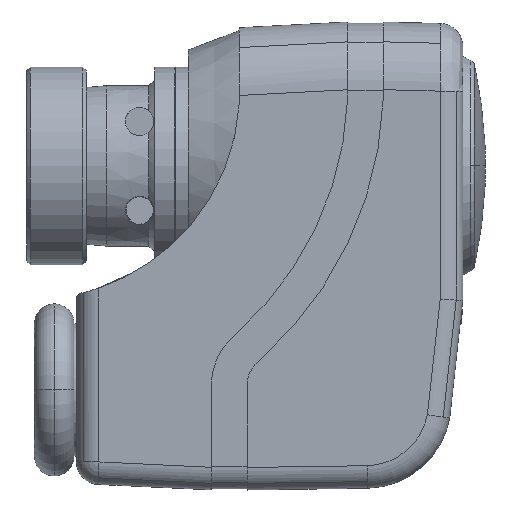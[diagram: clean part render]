
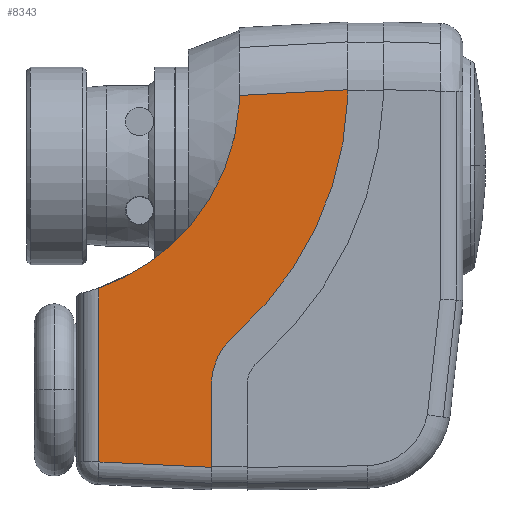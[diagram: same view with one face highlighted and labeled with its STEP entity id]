
A CAD part, left-side view. The second image highlights one B-rep face of the part: STEP entity #8343.
In plain terms, the highlighted planar face has unit normal (-1, 0, 0).
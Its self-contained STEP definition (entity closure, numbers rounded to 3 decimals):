
#7075=CARTESIAN_POINT('',(-24.0,-33.981,-33.71));
#7076=VERTEX_POINT('',#7075);
#7085=CARTESIAN_POINT('',(-24.0,-32.763,-38.152));
#7086=VERTEX_POINT('',#7085);
#7087=CARTESIAN_POINT('',(-24.0,-44.618,-39.013));
#7088=DIRECTION('',(1.,0.,0.));
#7089=DIRECTION('',(0.,0.895,0.446));
#7090=AXIS2_PLACEMENT_3D('',#7087,#7088,#7089);
#7091=CIRCLE('',#7090,11.886);
#7092=EDGE_CURVE('',#7086,#7076,#7091,.T.);
#7117=CARTESIAN_POINT('',(-24.,-51.192,-11.102));
#7118=VERTEX_POINT('',#7117);
#7127=CARTESIAN_POINT('',(-24.0,-36.796,-30.064));
#7128=VERTEX_POINT('',#7127);
#7129=CARTESIAN_POINT('',(-24.,2.023,14.353));
#7130=DIRECTION('',(-1.0,0.,0.));
#7131=DIRECTION('',(0.,-0.902,-0.432));
#7132=AXIS2_PLACEMENT_3D('',#7129,#7130,#7131);
#7133=CIRCLE('',#7132,58.989);
#7134=EDGE_CURVE('',#7128,#7118,#7133,.T.);
#7211=CARTESIAN_POINT('',(-24.0,-37.684,12.492));
#7212=VERTEX_POINT('',#7211);
#7220=CARTESIAN_POINT('',(-24.0,-56.92,13.503));
#7221=VERTEX_POINT('',#7220);
#7222=CARTESIAN_POINT('',(-24.0,-37.684,12.492));
#7223=DIRECTION('',(0.0,-0.999,0.052));
#7224=VECTOR('',#7223,19.262);
#7225=LINE('',#7222,#7224);
#7226=EDGE_CURVE('',#7212,#7221,#7225,.T.);
#7295=CARTESIAN_POINT('',(-24.0,-32.763,-53.457));
#7296=VERTEX_POINT('',#7295);
#7304=CARTESIAN_POINT('',(-24.0,-12.807,-52.498));
#7305=VERTEX_POINT('',#7304);
#7306=CARTESIAN_POINT('',(-24.0,-32.763,-53.457));
#7307=DIRECTION('',(0.0,0.999,0.048));
#7308=VECTOR('',#7307,19.98);
#7309=LINE('',#7306,#7308);
#7310=EDGE_CURVE('',#7296,#7305,#7309,.T.);
#7591=CARTESIAN_POINT('',(-24.,-29.03,-10.579));
#7592=VERTEX_POINT('',#7591);
#7599=CARTESIAN_POINT('',(-24.0,-37.684,11.01));
#7600=VERTEX_POINT('',#7599);
#7601=CARTESIAN_POINT('',(-24.0,-0.908,13.223));
#7602=DIRECTION('',(-1.0,0.,0.));
#7603=DIRECTION('',(0.,-0.763,-0.646));
#7604=AXIS2_PLACEMENT_3D('',#7601,#7602,#7603);
#7605=CIRCLE('',#7604,36.843);
#7606=EDGE_CURVE('',#7592,#7600,#7605,.T.);
#7663=CARTESIAN_POINT('',(-24.0,-12.807,-21.645));
#7664=VERTEX_POINT('',#7663);
#7678=CARTESIAN_POINT('',(-24.0,-0.908,13.223));
#7679=DIRECTION('',(-1.0,0.,0.));
#7680=DIRECTION('',(0.,-0.763,-0.646));
#7681=AXIS2_PLACEMENT_3D('',#7678,#7679,#7680);
#7682=CIRCLE('',#7681,36.843);
#7683=EDGE_CURVE('',#7664,#7592,#7682,.T.);
#7952=CARTESIAN_POINT('',(-24.0,-12.807,-52.498));
#7953=DIRECTION('',(0.0,0.0,1.0));
#7954=VECTOR('',#7953,30.853);
#7955=LINE('',#7952,#7954);
#7956=EDGE_CURVE('',#7305,#7664,#7955,.T.);
#8159=CARTESIAN_POINT('',(-24.0,-32.763,-53.457));
#8160=DIRECTION('',(0.0,0.0,1.0));
#8161=VECTOR('',#8160,15.305);
#8162=LINE('',#8159,#8161);
#8163=EDGE_CURVE('',#7296,#7086,#8162,.T.);
#8242=CARTESIAN_POINT('',(-24.0,-56.92,12.006));
#8243=VERTEX_POINT('',#8242);
#8244=CARTESIAN_POINT('',(-24.0,-56.92,12.006));
#8245=DIRECTION('',(0.0,0.0,1.0));
#8246=VECTOR('',#8245,1.496);
#8247=LINE('',#8244,#8246);
#8248=EDGE_CURVE('',#8243,#7221,#8247,.T.);
#8296=CARTESIAN_POINT('',(-24.0,-37.684,11.01));
#8297=DIRECTION('',(0.0,0.0,1.0));
#8298=VECTOR('',#8297,1.483);
#8299=LINE('',#8296,#8298);
#8300=EDGE_CURVE('',#7600,#7212,#8299,.T.);
#8312=CARTESIAN_POINT('',(-24.0,-46.964,-18.856));
#8313=DIRECTION('',(-1.0,0.0,0.0));
#8314=DIRECTION('',(0.0,0.0,-1.0));
#8315=AXIS2_PLACEMENT_3D('',#8312,#8313,#8314);
#8316=PLANE('',#8315);
#8317=ORIENTED_EDGE('',*,*,#7956,.F.);
#8318=ORIENTED_EDGE('',*,*,#7310,.F.);
#8319=ORIENTED_EDGE('',*,*,#8163,.T.);
#8320=ORIENTED_EDGE('',*,*,#7092,.T.);
#8321=CARTESIAN_POINT('',(-24.0,-44.618,-39.013));
#8322=DIRECTION('',(1.,0.,0.));
#8323=DIRECTION('',(0.,0.895,0.446));
#8324=AXIS2_PLACEMENT_3D('',#8321,#8322,#8323);
#8325=CIRCLE('',#8324,11.886);
#8326=EDGE_CURVE('',#7076,#7128,#8325,.T.);
#8327=ORIENTED_EDGE('',*,*,#8326,.T.);
#8328=ORIENTED_EDGE('',*,*,#7134,.T.);
#8329=CARTESIAN_POINT('',(-24.,2.023,14.353));
#8330=DIRECTION('',(-1.0,0.,0.));
#8331=DIRECTION('',(0.,-0.902,-0.432));
#8332=AXIS2_PLACEMENT_3D('',#8329,#8330,#8331);
#8333=CIRCLE('',#8332,58.989);
#8334=EDGE_CURVE('',#7118,#8243,#8333,.T.);
#8335=ORIENTED_EDGE('',*,*,#8334,.T.);
#8336=ORIENTED_EDGE('',*,*,#8248,.T.);
#8337=ORIENTED_EDGE('',*,*,#7226,.F.);
#8338=ORIENTED_EDGE('',*,*,#8300,.F.);
#8339=ORIENTED_EDGE('',*,*,#7606,.F.);
#8340=ORIENTED_EDGE('',*,*,#7683,.F.);
#8341=EDGE_LOOP('',(#8317,#8318,#8319,#8320,#8327,#8328,#8335,#8336,#8337,#8338,#8339,#8340));
#8342=FACE_OUTER_BOUND('',#8341,.T.);
#8343=ADVANCED_FACE('',(#8342),#8316,.T.);
